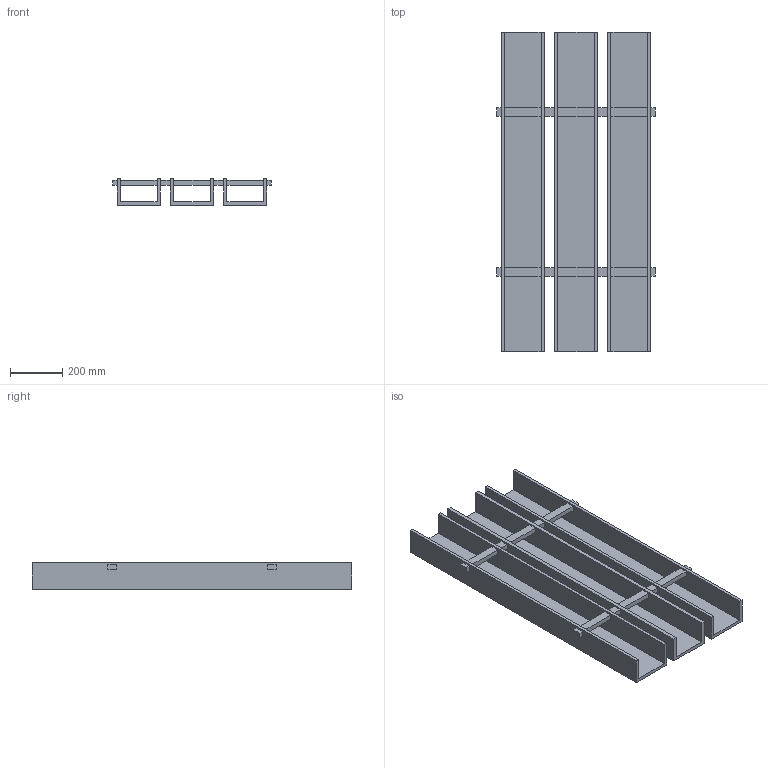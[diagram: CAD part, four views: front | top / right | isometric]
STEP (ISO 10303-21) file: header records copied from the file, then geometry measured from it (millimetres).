
FILE_DESCRIPTION(/* description */ (''),/* implementation_level */ '2;1');
FILE_NAME(/* name */ 'PET GRILLA_6.5x4_4ft',/* time_stamp */ '2024-10-15T14:22:48-05:00',/* author */ (''),/* organization */ (''),/* preprocessor_version */ 'ST-DEVELOPER v19.2',/* originating_system */ 'Rhino 8.4',/* authorisation */ '');
FILE_SCHEMA (('CONFIG_CONTROL_DESIGN'));
Length unit declared in the file: inch
Products named in the file (1): Document
Bounding box: 603.25 x 1219.2 x 101.6 mm (x, y, z)
Volume: 16565785.4 mm3; surface area: 2722413.9 mm2
Topology: 1 solids, 1 shells, 90 faces, 240 edges, 160 vertices
Faces by surface type: plane 90
Entity records: 2534 total; most frequent: CARTESIAN_POINT 732, ORIENTED_EDGE 480, EDGE_CURVE 240, B_SPLINE_CURVE_WITH_KNOTS 240, VERTEX_POINT 160, EDGE_LOOP 114, DIRECTION 94, AXIS2_PLACEMENT_3D 92
